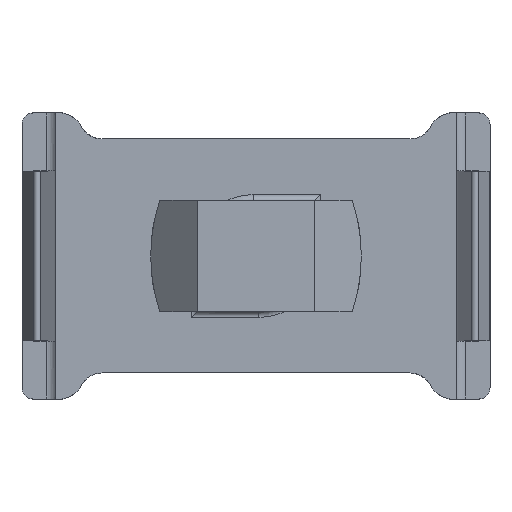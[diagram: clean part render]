
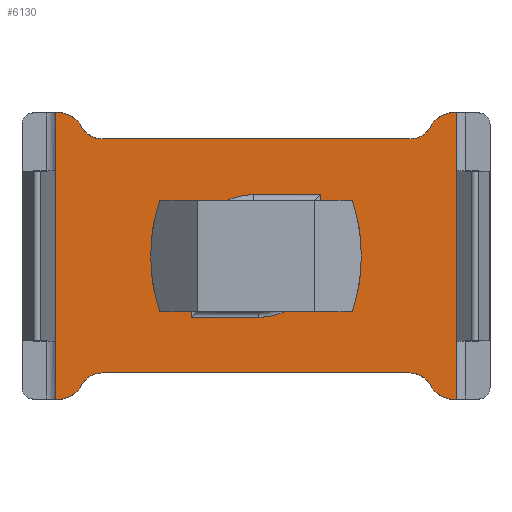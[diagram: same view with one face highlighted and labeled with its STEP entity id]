
A CAD part, front view. The second image highlights one B-rep face of the part: STEP entity #6130.
In plain terms, the highlighted planar face has unit normal (0, -1, 0).
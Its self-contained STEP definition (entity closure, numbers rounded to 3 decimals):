
#364=CIRCLE('',#6580,5.25);
#365=CIRCLE('',#6581,5.25);
#366=CIRCLE('',#6582,2.35);
#367=CIRCLE('',#6583,2.);
#368=CIRCLE('',#6584,2.);
#369=CIRCLE('',#6585,2.35);
#370=CIRCLE('',#6586,2.35);
#371=CIRCLE('',#6587,2.);
#372=CIRCLE('',#6588,2.);
#373=CIRCLE('',#6589,2.35);
#941=ORIENTED_EDGE('',*,*,#2773,.F.);
#942=ORIENTED_EDGE('',*,*,#2774,.T.);
#943=ORIENTED_EDGE('',*,*,#2775,.T.);
#944=ORIENTED_EDGE('',*,*,#2776,.F.);
#945=ORIENTED_EDGE('',*,*,#2769,.T.);
#946=ORIENTED_EDGE('',*,*,#2777,.F.);
#947=ORIENTED_EDGE('',*,*,#2778,.T.);
#948=ORIENTED_EDGE('',*,*,#2779,.F.);
#949=ORIENTED_EDGE('',*,*,#2780,.T.);
#950=ORIENTED_EDGE('',*,*,#2781,.F.);
#951=ORIENTED_EDGE('',*,*,#2782,.T.);
#952=ORIENTED_EDGE('',*,*,#2783,.F.);
#953=ORIENTED_EDGE('',*,*,#2784,.T.);
#954=ORIENTED_EDGE('',*,*,#2785,.F.);
#955=ORIENTED_EDGE('',*,*,#2786,.F.);
#956=ORIENTED_EDGE('',*,*,#2787,.F.);
#957=ORIENTED_EDGE('',*,*,#2788,.T.);
#958=ORIENTED_EDGE('',*,*,#2789,.F.);
#959=ORIENTED_EDGE('',*,*,#2790,.T.);
#960=ORIENTED_EDGE('',*,*,#2791,.F.);
#961=ORIENTED_EDGE('',*,*,#2792,.F.);
#962=ORIENTED_EDGE('',*,*,#2793,.T.);
#2769=EDGE_CURVE('',#3654,#3655,#4237,.T.);
#2773=EDGE_CURVE('',#3657,#3658,#4239,.T.);
#2774=EDGE_CURVE('',#3657,#3659,#4240,.T.);
#2775=EDGE_CURVE('',#3659,#3660,#364,.T.);
#2776=EDGE_CURVE('',#3654,#3660,#4241,.T.);
#2777=EDGE_CURVE('',#3658,#3655,#365,.T.);
#2778=EDGE_CURVE('',#3661,#3662,#4242,.T.);
#2779=EDGE_CURVE('',#3663,#3662,#366,.T.);
#2780=EDGE_CURVE('',#3663,#3664,#367,.T.);
#2781=EDGE_CURVE('',#3665,#3664,#4243,.T.);
#2782=EDGE_CURVE('',#3665,#3666,#368,.T.);
#2783=EDGE_CURVE('',#3667,#3666,#369,.T.);
#2784=EDGE_CURVE('',#3667,#3668,#4244,.T.);
#2785=EDGE_CURVE('',#3669,#3668,#4245,.T.);
#2786=EDGE_CURVE('',#3670,#3669,#4246,.T.);
#2787=EDGE_CURVE('',#3671,#3670,#370,.T.);
#2788=EDGE_CURVE('',#3671,#3672,#371,.T.);
#2789=EDGE_CURVE('',#3673,#3672,#4247,.T.);
#2790=EDGE_CURVE('',#3673,#3674,#372,.T.);
#2791=EDGE_CURVE('',#3675,#3674,#373,.T.);
#2792=EDGE_CURVE('',#3676,#3675,#4248,.T.);
#2793=EDGE_CURVE('',#3676,#3661,#4249,.T.);
#3654=VERTEX_POINT('',#9556);
#3655=VERTEX_POINT('',#9557);
#3657=VERTEX_POINT('',#9564);
#3658=VERTEX_POINT('',#9565);
#3659=VERTEX_POINT('',#9567);
#3660=VERTEX_POINT('',#9569);
#3661=VERTEX_POINT('',#9573);
#3662=VERTEX_POINT('',#9574);
#3663=VERTEX_POINT('',#9576);
#3664=VERTEX_POINT('',#9578);
#3665=VERTEX_POINT('',#9580);
#3666=VERTEX_POINT('',#9582);
#3667=VERTEX_POINT('',#9584);
#3668=VERTEX_POINT('',#9586);
#3669=VERTEX_POINT('',#9588);
#3670=VERTEX_POINT('',#9590);
#3671=VERTEX_POINT('',#9592);
#3672=VERTEX_POINT('',#9594);
#3673=VERTEX_POINT('',#9596);
#3674=VERTEX_POINT('',#9598);
#3675=VERTEX_POINT('',#9600);
#3676=VERTEX_POINT('',#9602);
#4237=LINE('',#9555,#4834);
#4239=LINE('',#9563,#4836);
#4240=LINE('',#9566,#4837);
#4241=LINE('',#9570,#4838);
#4242=LINE('',#9572,#4839);
#4243=LINE('',#9579,#4840);
#4244=LINE('',#9585,#4841);
#4245=LINE('',#9587,#4842);
#4246=LINE('',#9589,#4843);
#4247=LINE('',#9595,#4844);
#4248=LINE('',#9601,#4845);
#4249=LINE('',#9603,#4846);
#4834=VECTOR('',#7592,1000.);
#4836=VECTOR('',#7600,1000.);
#4837=VECTOR('',#7601,1000.);
#4838=VECTOR('',#7604,1000.);
#4839=VECTOR('',#7607,1000.);
#4840=VECTOR('',#7612,1000.);
#4841=VECTOR('',#7617,1000.);
#4842=VECTOR('',#7618,1000.);
#4843=VECTOR('',#7619,1000.);
#4844=VECTOR('',#7624,1000.);
#4845=VECTOR('',#7629,1000.);
#4846=VECTOR('',#7630,1000.);
#5305=EDGE_LOOP('',(#941,#942,#943,#944,#945,#946));
#5306=EDGE_LOOP('',(#947,#948,#949,#950,#951,#952,#953,#954,#955,#956,#957,
#958,#959,#960,#961,#962));
#5636=FACE_BOUND('',#5305,.T.);
#5637=FACE_BOUND('',#5306,.T.);
#5928=PLANE('',#6579);
#6130=ADVANCED_FACE('',(#5636,#5637),#5928,.F.);
#6579=AXIS2_PLACEMENT_3D('',#9562,#7598,#7599);
#6580=AXIS2_PLACEMENT_3D('',#9568,#7602,#7603);
#6581=AXIS2_PLACEMENT_3D('',#9571,#7605,#7606);
#6582=AXIS2_PLACEMENT_3D('',#9575,#7608,#7609);
#6583=AXIS2_PLACEMENT_3D('',#9577,#7610,#7611);
#6584=AXIS2_PLACEMENT_3D('',#9581,#7613,#7614);
#6585=AXIS2_PLACEMENT_3D('',#9583,#7615,#7616);
#6586=AXIS2_PLACEMENT_3D('',#9591,#7620,#7621);
#6587=AXIS2_PLACEMENT_3D('',#9593,#7622,#7623);
#6588=AXIS2_PLACEMENT_3D('',#9597,#7625,#7626);
#6589=AXIS2_PLACEMENT_3D('',#9599,#7627,#7628);
#7592=DIRECTION('',(0.,0.,-1.));
#7598=DIRECTION('',(0.,1.,0.));
#7599=DIRECTION('',(0.,0.,1.));
#7600=DIRECTION('',(1.,0.,0.));
#7601=DIRECTION('',(0.,0.,1.));
#7602=DIRECTION('',(0.,1.,0.));
#7603=DIRECTION('',(0.,0.,1.));
#7604=DIRECTION('',(-1.,0.,0.));
#7605=DIRECTION('',(0.,-1.,0.));
#7606=DIRECTION('',(0.,0.,-1.));
#7607=DIRECTION('',(1.,0.,0.));
#7608=DIRECTION('',(0.,1.,0.));
#7609=DIRECTION('',(1.,0.,0.));
#7610=DIRECTION('',(0.,1.,0.));
#7611=DIRECTION('',(1.,0.,0.));
#7612=DIRECTION('',(-1.,0.,0.));
#7613=DIRECTION('',(0.,1.,0.));
#7614=DIRECTION('',(1.,0.,0.));
#7615=DIRECTION('',(0.,1.,0.));
#7616=DIRECTION('',(1.,0.,0.));
#7617=DIRECTION('',(1.,0.,0.));
#7618=DIRECTION('',(0.,0.,-1.));
#7619=DIRECTION('',(1.,0.,0.));
#7620=DIRECTION('',(0.,1.,0.));
#7621=DIRECTION('',(1.,0.,0.));
#7622=DIRECTION('',(0.,1.,0.));
#7623=DIRECTION('',(1.,0.,0.));
#7624=DIRECTION('',(1.,0.,0.));
#7625=DIRECTION('',(0.,1.,0.));
#7626=DIRECTION('',(1.,0.,0.));
#7627=DIRECTION('',(0.,1.,0.));
#7628=DIRECTION('',(1.,0.,0.));
#7629=DIRECTION('',(1.,0.,0.));
#7630=DIRECTION('',(0.,0.,-1.));
#9555=CARTESIAN_POINT('',(5.5,0.,6.));
#9556=CARTESIAN_POINT('',(5.5,0.,5.25));
#9557=CARTESIAN_POINT('',(5.5,0.,0.));
#9562=CARTESIAN_POINT('',(-17.096,0.,12.246));
#9563=CARTESIAN_POINT('',(-5.,0.,-5.25));
#9564=CARTESIAN_POINT('',(-5.5,0.,-5.25));
#9565=CARTESIAN_POINT('',(0.25,0.,-5.25));
#9566=CARTESIAN_POINT('',(-5.5,0.,-5.25));
#9567=CARTESIAN_POINT('',(-5.5,0.,0.));
#9568=CARTESIAN_POINT('',(-0.25,0.,0.));
#9569=CARTESIAN_POINT('',(-0.25,0.,5.25));
#9570=CARTESIAN_POINT('',(5.,0.,5.25));
#9571=CARTESIAN_POINT('',(0.25,0.,0.));
#9572=CARTESIAN_POINT('',(-17.096,0.,-12.246));
#9573=CARTESIAN_POINT('',(-17.096,0.,-12.246));
#9574=CARTESIAN_POINT('',(-16.7,0.,-12.246));
#9575=CARTESIAN_POINT('',(-16.962,0.,-9.911));
#9576=CARTESIAN_POINT('',(-14.834,0.,-10.909));
#9577=CARTESIAN_POINT('',(-13.158,0.,-12.));
#9578=CARTESIAN_POINT('',(-13.158,0.,-10.));
#9579=CARTESIAN_POINT('',(13.158,0.,-10.));
#9580=CARTESIAN_POINT('',(13.158,0.,-10.));
#9581=CARTESIAN_POINT('',(13.158,0.,-12.));
#9582=CARTESIAN_POINT('',(14.834,0.,-10.909));
#9583=CARTESIAN_POINT('',(16.962,0.,-9.91));
#9584=CARTESIAN_POINT('',(16.7,0.,-12.246));
#9585=CARTESIAN_POINT('',(-17.096,0.,-12.246));
#9586=CARTESIAN_POINT('',(17.096,0.,-12.246));
#9587=CARTESIAN_POINT('',(17.096,0.,12.246));
#9588=CARTESIAN_POINT('',(17.096,0.,12.246));
#9589=CARTESIAN_POINT('',(-17.096,0.,12.246));
#9590=CARTESIAN_POINT('',(16.7,0.,12.246));
#9591=CARTESIAN_POINT('',(16.962,0.,9.911));
#9592=CARTESIAN_POINT('',(14.834,0.,10.909));
#9593=CARTESIAN_POINT('',(13.158,0.,12.));
#9594=CARTESIAN_POINT('',(13.158,0.,10.));
#9595=CARTESIAN_POINT('',(-13.158,0.,10.));
#9596=CARTESIAN_POINT('',(-13.158,0.,10.));
#9597=CARTESIAN_POINT('',(-13.158,0.,12.));
#9598=CARTESIAN_POINT('',(-14.834,0.,10.909));
#9599=CARTESIAN_POINT('',(-16.962,0.,9.911));
#9600=CARTESIAN_POINT('',(-16.7,0.,12.246));
#9601=CARTESIAN_POINT('',(-17.096,0.,12.246));
#9602=CARTESIAN_POINT('',(-17.096,0.,12.246));
#9603=CARTESIAN_POINT('',(-17.096,0.,12.246));
